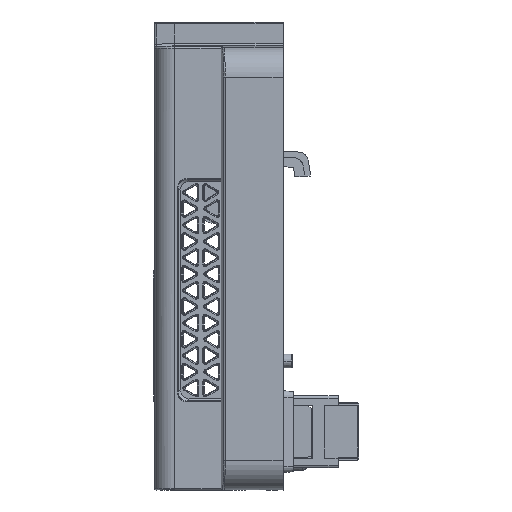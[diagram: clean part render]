
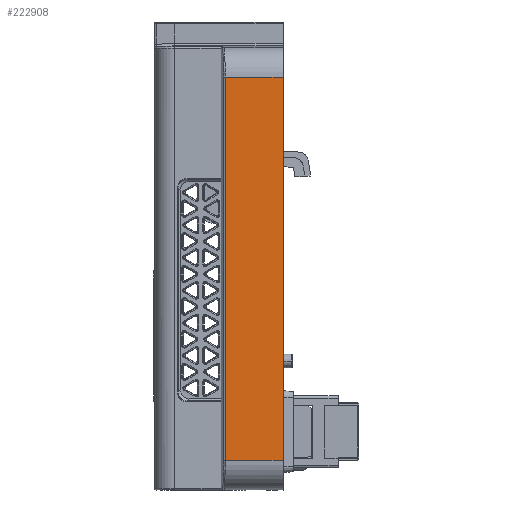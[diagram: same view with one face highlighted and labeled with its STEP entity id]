
A CAD part, left-side view. The second image highlights one B-rep face of the part: STEP entity #222908.
In plain terms, the highlighted planar face has unit normal (-1, 0, 0) as drawn and (1, 0, 0) by its records, which use the part's own axes.
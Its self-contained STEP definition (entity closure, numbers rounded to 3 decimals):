
#193355=DIRECTION('',(0.,0.,1.));
#193356=VECTOR('',#193355,77.521);
#193357=CARTESIAN_POINT('',(36.,11.731,
-83.521));
#193358=LINE('',#193357,#193356);
#193359=DIRECTION('',(0.,1.,0.));
#193360=VECTOR('',#193359,11.731);
#193361=CARTESIAN_POINT('',(36.,0.,-83.521));
#193362=LINE('',#193361,#193360);
#193363=DIRECTION('',(0.,0.,-1.));
#193364=VECTOR('',#193363,77.521);
#193365=CARTESIAN_POINT('',(36.,0.,-6.));
#193366=LINE('',#193365,#193364);
#193367=DIRECTION('',(0.,1.,
0.));
#193368=VECTOR('',#193367,11.731);
#193369=CARTESIAN_POINT('',(36.,0.,-6.));
#193370=LINE('',#193369,#193368);
#208284=CARTESIAN_POINT('',(36.,0.,-6.));
#208286=VERTEX_POINT('',#208284);
#208847=CARTESIAN_POINT('',(36.,11.731,
-83.521));
#208848=CARTESIAN_POINT('',(36.,11.731,
-6.));
#208849=VERTEX_POINT('',#208847);
#208850=VERTEX_POINT('',#208848);
#208862=CARTESIAN_POINT('',(36.,0.,-83.521));
#208864=VERTEX_POINT('',#208862);
#222895=CARTESIAN_POINT('',(36.,0.,0.));
#222896=DIRECTION('',(1.,0.,0.));
#222897=DIRECTION('',(0.,1.,0.));
#222898=AXIS2_PLACEMENT_3D('',#222895,#222896,#222897);
#222899=PLANE('',#222898);
#222900=ORIENTED_EDGE('',*,*,#222886,.F.);
#222902=ORIENTED_EDGE('',*,*,#222901,.F.);
#222903=ORIENTED_EDGE('',*,*,#222653,.F.);
#222905=ORIENTED_EDGE('',*,*,#222904,.T.);
#222906=EDGE_LOOP('',(#222900,#222902,#222903,#222905));
#222907=FACE_OUTER_BOUND('',#222906,.F.);
#222908=ADVANCED_FACE('',(#222907),#222899,.T.);
#222653=EDGE_CURVE('',#208286,#208864,#193366,.T.);
#222886=EDGE_CURVE('',#208849,#208850,#193358,.T.);
#222901=EDGE_CURVE('',#208864,#208849,#193362,.T.);
#222904=EDGE_CURVE('',#208286,#208850,#193370,.T.);
